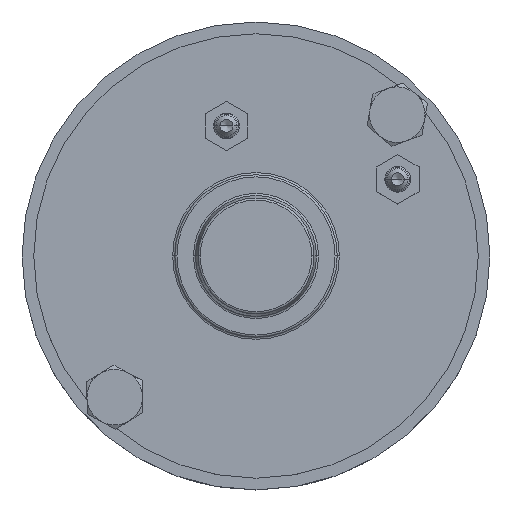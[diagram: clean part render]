
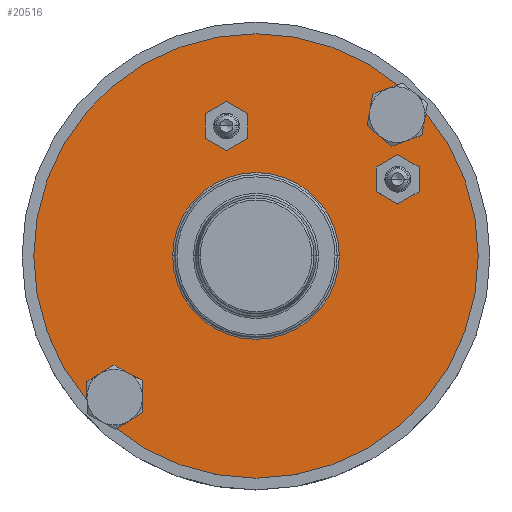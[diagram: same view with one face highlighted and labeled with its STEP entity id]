
A CAD part, top view. The second image highlights one B-rep face of the part: STEP entity #20516.
In plain terms, the highlighted planar face has unit normal (0, 0, 1).
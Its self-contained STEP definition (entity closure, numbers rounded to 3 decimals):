
#476 = EDGE_LOOP ( 'NONE', ( #22827, #36641 ) ) ;
#1364 = CARTESIAN_POINT ( 'NONE',  ( 33.057, 33.057, 131. ) ) ;
#2039 = DIRECTION ( 'NONE',  ( 1., 0., 0. ) ) ;
#2181 = VERTEX_POINT ( 'NONE', #5942 ) ;
#2197 = CARTESIAN_POINT ( 'NONE',  ( 19.5, 0., 131. ) ) ;
#2423 = EDGE_CURVE ( 'NONE', #30142, #31806, #20866, .T. ) ;
#2530 = CARTESIAN_POINT ( 'NONE',  ( 29.158, 17.926, 131. ) ) ;
#2866 = AXIS2_PLACEMENT_3D ( 'NONE', #36926, #17624, #40203 ) ;
#3563 = CARTESIAN_POINT ( 'NONE',  ( -33.057, -33.057, 131. ) ) ;
#3861 = ORIENTED_EDGE ( 'NONE', *, *, #41119, .F. ) ;
#4293 = ORIENTED_EDGE ( 'NONE', *, *, #29310, .F. ) ;
#4514 = EDGE_CURVE ( 'NONE', #17164, #2181, #22676, .T. ) ;
#4610 = DIRECTION ( 'NONE',  ( 1., 0., 0. ) ) ;
#5534 = CARTESIAN_POINT ( 'NONE',  ( 33.158, 17.926, 131. ) ) ;
#5942 = CARTESIAN_POINT ( 'NONE',  ( 52., 0., 131. ) ) ;
#6858 = DIRECTION ( 'NONE',  ( -1., 0., 0. ) ) ;
#7065 = CIRCLE ( 'NONE', #20646, 4. ) ;
#7549 = VERTEX_POINT ( 'NONE', #30353 ) ;
#7682 = EDGE_CURVE ( 'NONE', #20122, #32222, #33100, .T. ) ;
#7830 = FACE_BOUND ( 'NONE', #13492, .T. ) ;
#8082 = CARTESIAN_POINT ( 'NONE',  ( 0., 0., 131. ) ) ;
#8212 = DIRECTION ( 'NONE',  ( 0., 0., 1. ) ) ;
#8297 = AXIS2_PLACEMENT_3D ( 'NONE', #15959, #35254, #12705 ) ;
#8806 = DIRECTION ( 'NONE',  ( 1., 0., 0. ) ) ;
#8820 = FACE_OUTER_BOUND ( 'NONE', #26371, .T. ) ;
#9083 = DIRECTION ( 'NONE',  ( 0., 0., 1. ) ) ;
#9545 = EDGE_LOOP ( 'NONE', ( #27300, #31583 ) ) ;
#9589 = AXIS2_PLACEMENT_3D ( 'NONE', #30014, #10769, #33285 ) ;
#10007 = ORIENTED_EDGE ( 'NONE', *, *, #12219, .T. ) ;
#10769 = DIRECTION ( 'NONE',  ( 0., 0., 1. ) ) ;
#11232 = CARTESIAN_POINT ( 'NONE',  ( 0., 0., 131. ) ) ;
#11621 = CIRCLE ( 'NONE', #29997, 52. ) ;
#11628 = CIRCLE ( 'NONE', #30691, 4. ) ;
#12219 = EDGE_CURVE ( 'NONE', #2181, #17164, #11621, .T. ) ;
#12705 = DIRECTION ( 'NONE',  ( 1., 0., 0. ) ) ;
#13162 = EDGE_CURVE ( 'NONE', #14354, #39992, #39795, .T. ) ;
#13492 = EDGE_LOOP ( 'NONE', ( #4293, #27639 ) ) ;
#13591 = CARTESIAN_POINT ( 'NONE',  ( 33.057, 33.057, 131. ) ) ;
#13673 = AXIS2_PLACEMENT_3D ( 'NONE', #1364, #23949, #4610 ) ;
#14303 = VERTEX_POINT ( 'NONE', #39481 ) ;
#14354 = VERTEX_POINT ( 'NONE', #20445 ) ;
#14404 = CIRCLE ( 'NONE', #2866, 19.5 ) ;
#14456 = DIRECTION ( 'NONE',  ( 1., 0., 0. ) ) ;
#14512 = PLANE ( 'NONE',  #37631 ) ;
#14806 = EDGE_CURVE ( 'NONE', #31806, #30142, #14404, .T. ) ;
#15635 = ORIENTED_EDGE ( 'NONE', *, *, #34053, .F. ) ;
#15745 = VERTEX_POINT ( 'NONE', #32504 ) ;
#15959 = CARTESIAN_POINT ( 'NONE',  ( 0., 0., 131. ) ) ;
#16366 = FACE_BOUND ( 'NONE', #26160, .T. ) ;
#16829 = DIRECTION ( 'NONE',  ( 1., 0., 0. ) ) ;
#17164 = VERTEX_POINT ( 'NONE', #19690 ) ;
#17378 = CIRCLE ( 'NONE', #37072, 2.75 ) ;
#17602 = CARTESIAN_POINT ( 'NONE',  ( -2.892, 30.406, 131. ) ) ;
#17624 = DIRECTION ( 'NONE',  ( 0., 0., -1. ) ) ;
#18371 = DIRECTION ( 'NONE',  ( 0., 0., 1. ) ) ;
#18702 = CIRCLE ( 'NONE', #13673, 2.75 ) ;
#19690 = CARTESIAN_POINT ( 'NONE',  ( -52., 0., 131. ) ) ;
#20116 = EDGE_CURVE ( 'NONE', #15745, #14303, #17378, .T. ) ;
#20122 = VERTEX_POINT ( 'NONE', #2530 ) ;
#20261 = AXIS2_PLACEMENT_3D ( 'NONE', #13591, #36130, #16829 ) ;
#20419 = ORIENTED_EDGE ( 'NONE', *, *, #13162, .F. ) ;
#20445 = CARTESIAN_POINT ( 'NONE',  ( -10.892, 30.406, 131. ) ) ;
#20516 = ADVANCED_FACE ( 'NONE', ( #16366, #24934, #7830, #41101, #32484, #8820 ), #14512, .T. ) ;
#20646 = AXIS2_PLACEMENT_3D ( 'NONE', #5534, #28070, #8806 ) ;
#20866 = CIRCLE ( 'NONE', #8297, 19.5 ) ;
#21354 = DIRECTION ( 'NONE',  ( 0., 0., 1. ) ) ;
#22676 = CIRCLE ( 'NONE', #27752, 52. ) ;
#22827 = ORIENTED_EDGE ( 'NONE', *, *, #2423, .T. ) ;
#23949 = DIRECTION ( 'NONE',  ( 0., 0., 1. ) ) ;
#24138 = EDGE_CURVE ( 'NONE', #32222, #20122, #7065, .T. ) ;
#24934 = FACE_BOUND ( 'NONE', #9545, .T. ) ;
#25877 = ORIENTED_EDGE ( 'NONE', *, *, #4514, .T. ) ;
#26137 = DIRECTION ( 'NONE',  ( 0., 0., 1. ) ) ;
#26160 = EDGE_LOOP ( 'NONE', ( #15635, #20419 ) ) ;
#26371 = EDGE_LOOP ( 'NONE', ( #25877, #10007 ) ) ;
#26811 = DIRECTION ( 'NONE',  ( 1., 0., 0. ) ) ;
#27300 = ORIENTED_EDGE ( 'NONE', *, *, #24138, .F. ) ;
#27449 = CIRCLE ( 'NONE', #20261, 2.75 ) ;
#27639 = ORIENTED_EDGE ( 'NONE', *, *, #20116, .F. ) ;
#27752 = AXIS2_PLACEMENT_3D ( 'NONE', #30446, #38240, #26811 ) ;
#28070 = DIRECTION ( 'NONE',  ( 0., 0., 1. ) ) ;
#28125 = AXIS2_PLACEMENT_3D ( 'NONE', #3563, #26137, #6858 ) ;
#28342 = CARTESIAN_POINT ( 'NONE',  ( -33.057, -33.057, 131. ) ) ;
#28556 = VERTEX_POINT ( 'NONE', #35630 ) ;
#29310 = EDGE_CURVE ( 'NONE', #14303, #15745, #29329, .T. ) ;
#29329 = CIRCLE ( 'NONE', #28125, 2.75 ) ;
#29377 = CARTESIAN_POINT ( 'NONE',  ( 37.158, 17.926, 131. ) ) ;
#29997 = AXIS2_PLACEMENT_3D ( 'NONE', #11232, #33755, #14456 ) ;
#30014 = CARTESIAN_POINT ( 'NONE',  ( -6.892, 30.406, 131. ) ) ;
#30142 = VERTEX_POINT ( 'NONE', #2197 ) ;
#30353 = CARTESIAN_POINT ( 'NONE',  ( 30.307, 33.057, 131. ) ) ;
#30446 = CARTESIAN_POINT ( 'NONE',  ( 0., 0., 131. ) ) ;
#30681 = DIRECTION ( 'NONE',  ( 1., 0., 0. ) ) ;
#30691 = AXIS2_PLACEMENT_3D ( 'NONE', #37681, #18371, #40979 ) ;
#31583 = ORIENTED_EDGE ( 'NONE', *, *, #7682, .F. ) ;
#31587 = DIRECTION ( 'NONE',  ( -1., 0., 0. ) ) ;
#31806 = VERTEX_POINT ( 'NONE', #33354 ) ;
#32222 = VERTEX_POINT ( 'NONE', #29377 ) ;
#32484 = FACE_BOUND ( 'NONE', #476, .T. ) ;
#32504 = CARTESIAN_POINT ( 'NONE',  ( -35.807, -33.057, 131. ) ) ;
#33100 = CIRCLE ( 'NONE', #33662, 4. ) ;
#33285 = DIRECTION ( 'NONE',  ( 1., 0., 0. ) ) ;
#33354 = CARTESIAN_POINT ( 'NONE',  ( -19.5, 0., 131. ) ) ;
#33662 = AXIS2_PLACEMENT_3D ( 'NONE', #40717, #21354, #2039 ) ;
#33755 = DIRECTION ( 'NONE',  ( 0., 0., 1. ) ) ;
#34053 = EDGE_CURVE ( 'NONE', #39992, #14354, #11628, .T. ) ;
#35254 = DIRECTION ( 'NONE',  ( 0., 0., -1. ) ) ;
#35630 = CARTESIAN_POINT ( 'NONE',  ( 35.807, 33.057, 131. ) ) ;
#36130 = DIRECTION ( 'NONE',  ( 0., 0., 1. ) ) ;
#36641 = ORIENTED_EDGE ( 'NONE', *, *, #14806, .T. ) ;
#36755 = EDGE_LOOP ( 'NONE', ( #37736, #3861 ) ) ;
#36926 = CARTESIAN_POINT ( 'NONE',  ( 0., 0., 131. ) ) ;
#37072 = AXIS2_PLACEMENT_3D ( 'NONE', #28342, #9083, #31587 ) ;
#37224 = EDGE_CURVE ( 'NONE', #28556, #7549, #27449, .T. ) ;
#37631 = AXIS2_PLACEMENT_3D ( 'NONE', #8082, #8212, #30681 ) ;
#37681 = CARTESIAN_POINT ( 'NONE',  ( -6.892, 30.406, 131. ) ) ;
#37736 = ORIENTED_EDGE ( 'NONE', *, *, #37224, .F. ) ;
#38240 = DIRECTION ( 'NONE',  ( 0., 0., 1. ) ) ;
#39481 = CARTESIAN_POINT ( 'NONE',  ( -30.307, -33.057, 131. ) ) ;
#39795 = CIRCLE ( 'NONE', #9589, 4. ) ;
#39992 = VERTEX_POINT ( 'NONE', #17602 ) ;
#40203 = DIRECTION ( 'NONE',  ( 1., 0., 0. ) ) ;
#40717 = CARTESIAN_POINT ( 'NONE',  ( 33.158, 17.926, 131. ) ) ;
#40979 = DIRECTION ( 'NONE',  ( 1., 0., 0. ) ) ;
#41101 = FACE_BOUND ( 'NONE', #36755, .T. ) ;
#41119 = EDGE_CURVE ( 'NONE', #7549, #28556, #18702, .T. ) ;
